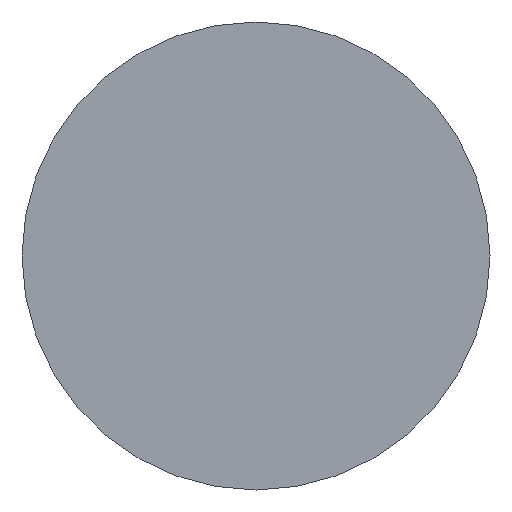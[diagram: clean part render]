
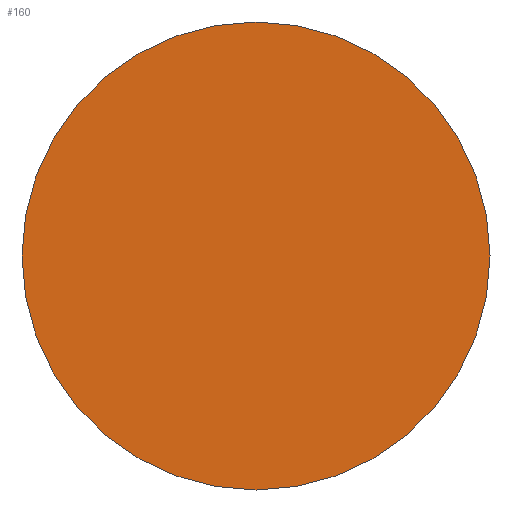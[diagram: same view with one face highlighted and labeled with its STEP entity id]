
A CAD part, left-side view. The second image highlights one B-rep face of the part: STEP entity #160.
In plain terms, the highlighted planar face has unit normal (-1, 0, 0).
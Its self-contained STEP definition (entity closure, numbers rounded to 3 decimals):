
#3 = EDGE_CURVE ( 'NONE', #111, #154, #240, .T. ) ;
#12 = DIRECTION ( 'NONE',  ( 1., 0., 0. ) ) ;
#26 = CARTESIAN_POINT ( 'NONE',  ( 0., 0., 0. ) ) ;
#63 = AXIS2_PLACEMENT_3D ( 'NONE', #26, #12, #90 ) ;
#90 = DIRECTION ( 'NONE',  ( 0., 1., 0. ) ) ;
#94 = ORIENTED_EDGE ( 'NONE', *, *, #3, .F. ) ;
#95 = ORIENTED_EDGE ( 'NONE', *, *, #161, .F. ) ;
#111 = VERTEX_POINT ( 'NONE', #251 ) ;
#140 = CARTESIAN_POINT ( 'NONE',  ( 0., 0., 0. ) ) ;
#154 = VERTEX_POINT ( 'NONE', #209 ) ;
#160 = ADVANCED_FACE ( 'NONE', ( #171 ), #163, .T. ) ;
#161 = EDGE_CURVE ( 'NONE', #154, #111, #213, .T. ) ;
#163 = PLANE ( 'NONE',  #219 ) ;
#171 = FACE_OUTER_BOUND ( 'NONE', #243, .T. ) ;
#209 = CARTESIAN_POINT ( 'NONE',  ( 0., 12., 0. ) ) ;
#213 = CIRCLE ( 'NONE', #233, 12. ) ;
#219 = AXIS2_PLACEMENT_3D ( 'NONE', #140, #241, #248 ) ;
#225 = DIRECTION ( 'NONE',  ( 0., 1., 0. ) ) ;
#233 = AXIS2_PLACEMENT_3D ( 'NONE', #252, #234, #225 ) ;
#234 = DIRECTION ( 'NONE',  ( 1., 0., 0. ) ) ;
#240 = CIRCLE ( 'NONE', #63, 12. ) ;
#241 = DIRECTION ( 'NONE',  ( -1., 0., 0. ) ) ;
#243 = EDGE_LOOP ( 'NONE', ( #95, #94 ) ) ;
#248 = DIRECTION ( 'NONE',  ( 0., -1., 0. ) ) ;
#251 = CARTESIAN_POINT ( 'NONE',  ( 0., -12., 0. ) ) ;
#252 = CARTESIAN_POINT ( 'NONE',  ( 0., 0., 0. ) ) ;
